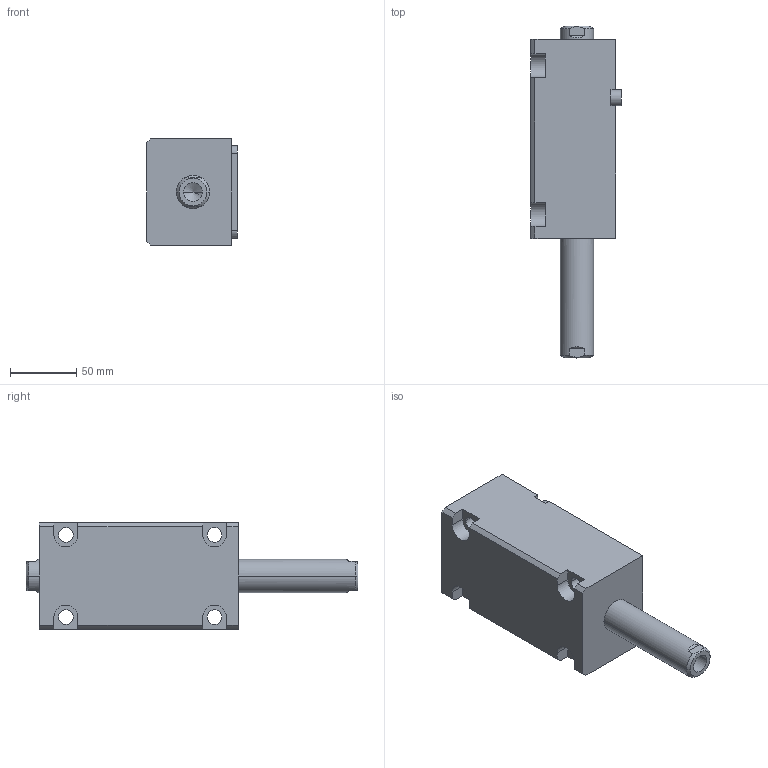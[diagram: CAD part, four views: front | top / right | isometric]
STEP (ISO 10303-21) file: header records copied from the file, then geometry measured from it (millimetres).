
FILE_DESCRIPTION (( 'STEP AP214' ), '1' );
FILE_NAME ('chtb-lwm40x80n_asm.STEP', '2018-05-30T08:25:42', ( 'Windows' ), ( 'Microsoft' ), 'SwSTEP 2.0', 'SolidWorks 2015', '' );
FILE_SCHEMA (( 'AUTOMOTIVE_DESIGN' ));
Length unit declared in the file: millimetre
Products named in the file (5): CHTB-SD40QG; CHTB-LWM40X80NBT; CHTB-LA40PJ; chtb-lwm40x80n_asm; CHTB-SW40X80NHSG
Assembly tree (4 placements, depth 2):
  chtb-lwm40x80n_asm
    CHTB-LA40PJ
    CHTB-LWM40X80NBT
    CHTB-SD40QG
    CHTB-SW40X80NHSG
Bounding box: 68.5 x 250 x 80 mm (x, y, z)
Volume: 714313.8 mm3; surface area: 117037.8 mm2
Topology: 4 solids, 4 shells, 166 faces, 450 edges, 296 vertices
Faces by surface type: cylinder 77, plane 50, bspline 14, cone 13, torus 12
Entity records: 10488 total; most frequent: CARTESIAN_POINT 6156, ORIENTED_EDGE 880, DIRECTION 821, EDGE_CURVE 440, AXIS2_PLACEMENT_3D 326, VERTEX_POINT 296, EDGE_LOOP 196, VECTOR 169
